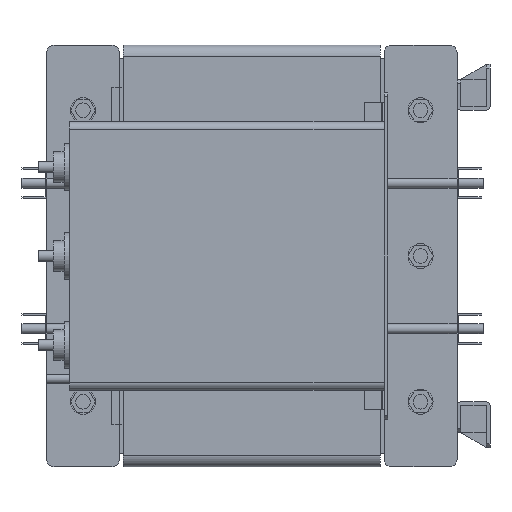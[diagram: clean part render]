
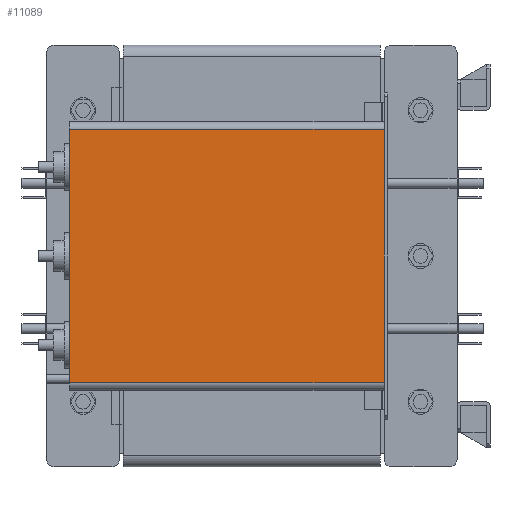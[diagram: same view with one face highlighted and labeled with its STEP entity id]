
A CAD part, left-side view. The second image highlights one B-rep face of the part: STEP entity #11089.
In plain terms, the highlighted planar face has unit normal (-1, 0, 0).
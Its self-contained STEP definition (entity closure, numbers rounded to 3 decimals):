
#1293=FACE_OUTER_BOUND('',#2019,.T.);
#2019=EDGE_LOOP('',(#9317,#9318,#9319,#9320));
#3056=LINE('',#17878,#4188);
#3128=LINE('',#18072,#4260);
#3129=LINE('',#18075,#4261);
#3130=LINE('',#18076,#4262);
#4188=VECTOR('',#14711,10.);
#4260=VECTOR('',#14893,10.);
#4261=VECTOR('',#14896,10.);
#4262=VECTOR('',#14897,10.);
#5182=VERTEX_POINT('',#17875);
#5183=VERTEX_POINT('',#17877);
#5250=VERTEX_POINT('',#18070);
#5251=VERTEX_POINT('',#18074);
#6565=EDGE_CURVE('',#5182,#5183,#3056,.T.);
#6663=EDGE_CURVE('',#5182,#5250,#3128,.T.);
#6664=EDGE_CURVE('',#5251,#5250,#3129,.T.);
#6665=EDGE_CURVE('',#5183,#5251,#3130,.T.);
#9317=ORIENTED_EDGE('',*,*,#6565,.F.);
#9318=ORIENTED_EDGE('',*,*,#6663,.T.);
#9319=ORIENTED_EDGE('',*,*,#6664,.F.);
#9320=ORIENTED_EDGE('',*,*,#6665,.F.);
#10473=PLANE('',#12109);
#11089=ADVANCED_FACE('',(#1293),#10473,.T.);
#12109=AXIS2_PLACEMENT_3D('',#18073,#14894,#14895);
#14711=DIRECTION('',(0.,0.,-1.));
#14893=DIRECTION('',(0.,1.,0.));
#14894=DIRECTION('center_axis',(-1.,0.,0.));
#14895=DIRECTION('ref_axis',(0.,0.,
1.));
#14896=DIRECTION('',(0.,0.,1.));
#14897=DIRECTION('',(0.,1.,0.));
#17875=CARTESIAN_POINT('',(-575.,-5.,165.));
#17877=CARTESIAN_POINT('',(-575.,-5.,-165.));
#17878=CARTESIAN_POINT('',(-575.,-5.,50.));
#18070=CARTESIAN_POINT('',(-575.,405.,165.));
#18072=CARTESIAN_POINT('',(-575.,-5.,165.));
#18073=CARTESIAN_POINT('Origin',(-575.,-5.,-165.));
#18074=CARTESIAN_POINT('',(-575.,405.,-165.));
#18075=CARTESIAN_POINT('',(-575.,405.,-165.));
#18076=CARTESIAN_POINT('',(-575.,-5.,-165.));
